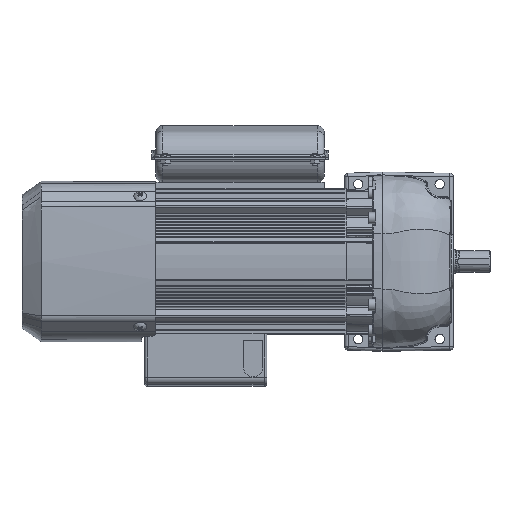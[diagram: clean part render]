
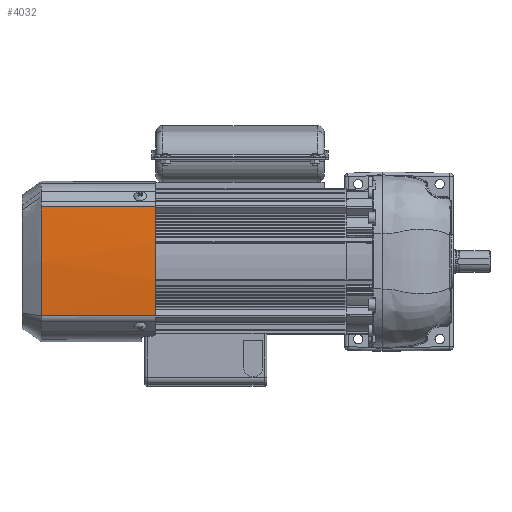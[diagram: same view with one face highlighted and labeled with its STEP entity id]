
A CAD part, top view. The second image highlights one B-rep face of the part: STEP entity #4032.
In plain terms, the highlighted cylindrical face has radius 400.6 mm (diameter 801.2 mm), a partial arc.
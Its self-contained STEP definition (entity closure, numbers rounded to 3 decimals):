
#4032 = ADVANCED_FACE( '', ( #9033 ), #9034, .T. );
#9033 = FACE_OUTER_BOUND( '', #19608, .T. );
#9034 = CYLINDRICAL_SURFACE( '', #19609, 400.6 );
#19608 = EDGE_LOOP( '', ( #36054, #36055, #36056, #36057 ) );
#19609 = AXIS2_PLACEMENT_3D( '', #36058, #36059, #36060 );
#36054 = ORIENTED_EDGE( '', *, *, #47369, .F. );
#36055 = ORIENTED_EDGE( '', *, *, #48214, .F. );
#36056 = ORIENTED_EDGE( '', *, *, #48215, .T. );
#36057 = ORIENTED_EDGE( '', *, *, #43861, .T. );
#36058 = CARTESIAN_POINT( '', ( -147., 0., -361.6 ) );
#36059 = DIRECTION( '', ( 1., 0., 0. ) );
#36060 = DIRECTION( '', ( 0., 0., -1. ) );
#43861 = EDGE_CURVE( '', #50362, #50359, #50363, .T. );
#47369 = EDGE_CURVE( '', #53651, #50359, #56039, .T. );
#48214 = EDGE_CURVE( '', #57193, #53651, #57194, .T. );
#48215 = EDGE_CURVE( '', #57193, #50362, #57195, .T. );
#50359 = VERTEX_POINT( '', #60092 );
#50362 = VERTEX_POINT( '', #60098 );
#50363 = LINE( '', #60099, #60100 );
#53651 = VERTEX_POINT( '', #66684 );
#56039 = B_SPLINE_CURVE_WITH_KNOTS( '', 3, ( #71162, #71163, #71164, #71165 ), .UNSPECIFIED., .F., .F., ( 4, 4 ), ( 0., 1. ), .UNSPECIFIED. );
#57193 = VERTEX_POINT( '', #73817 );
#57194 = LINE( '', #73818, #73819 );
#57195 = CIRCLE( '', #73820, 400.6 );
#60092 = CARTESIAN_POINT( '', ( -231., 40.091, 36.989 ) );
#60098 = CARTESIAN_POINT( '', ( -147., 40.091, 36.989 ) );
#60099 = CARTESIAN_POINT( '', ( -147., 40.091, 36.989 ) );
#60100 = VECTOR( '', #78123, 1000. );
#66684 = CARTESIAN_POINT( '', ( -231., -40.091, 36.989 ) );
#71162 = CARTESIAN_POINT( '', ( -231., -40.091, 36.989 ) );
#71163 = CARTESIAN_POINT( '', ( -231., -13.453, 39.668 ) );
#71164 = CARTESIAN_POINT( '', ( -231., 13.453, 39.668 ) );
#71165 = CARTESIAN_POINT( '', ( -231., 40.091, 36.989 ) );
#73817 = CARTESIAN_POINT( '', ( -147., -40.091, 36.989 ) );
#73818 = CARTESIAN_POINT( '', ( -147., -40.091, 36.989 ) );
#73819 = VECTOR( '', #83804, 1000. );
#73820 = AXIS2_PLACEMENT_3D( '', #83805, #83806, #83807 );
#78123 = DIRECTION( '', ( -1., 0., 0. ) );
#83804 = DIRECTION( '', ( -1., 0., 0. ) );
#83805 = CARTESIAN_POINT( '', ( -147., 0., -361.6 ) );
#83806 = DIRECTION( '', ( -1., 0., 0. ) );
#83807 = DIRECTION( '', ( 0., -1., 0. ) );
